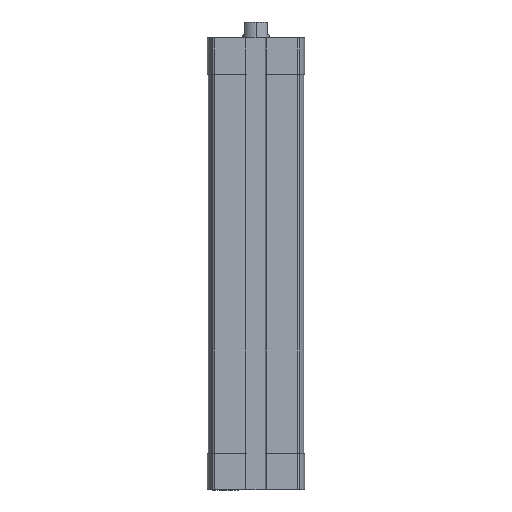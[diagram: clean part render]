
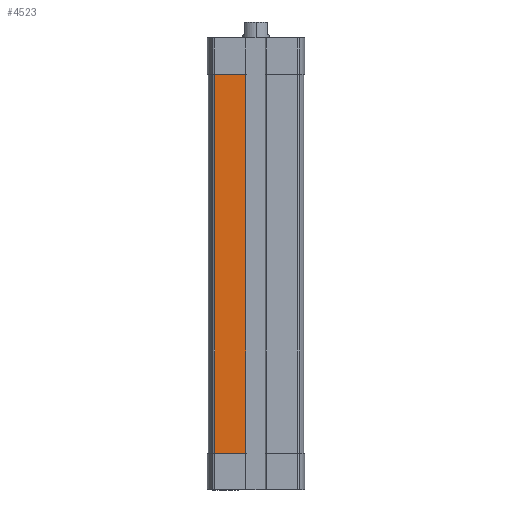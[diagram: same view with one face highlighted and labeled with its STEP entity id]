
A CAD part, left-side view. The second image highlights one B-rep face of the part: STEP entity #4523.
In plain terms, the highlighted planar face has unit normal (-1, 0, 0).
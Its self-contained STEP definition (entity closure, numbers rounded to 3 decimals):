
#397 = VECTOR ( 'NONE', #8538, 1000. ) ;
#1030 = CARTESIAN_POINT ( 'NONE',  ( -14.25, 12.347, -124. ) ) ;
#1310 = EDGE_CURVE ( 'NONE', #2787, #2977, #7086, .T. ) ;
#1376 = ORIENTED_EDGE ( 'NONE', *, *, #10419, .T. ) ;
#1497 = EDGE_CURVE ( 'NONE', #4537, #5689, #5673, .T. ) ;
#2312 = VECTOR ( 'NONE', #3758, 1000. ) ;
#2787 = VERTEX_POINT ( 'NONE', #4947 ) ;
#2963 = CARTESIAN_POINT ( 'NONE',  ( -14.25, 3.1, -11. ) ) ;
#2977 = VERTEX_POINT ( 'NONE', #6559 ) ;
#3280 = VECTOR ( 'NONE', #6947, 1000. ) ;
#3620 = FACE_OUTER_BOUND ( 'NONE', #9767, .T. ) ;
#3679 = DIRECTION ( 'NONE',  ( 0., 0., -1. ) ) ;
#3758 = DIRECTION ( 'NONE',  ( 0., -1., 0. ) ) ;
#3855 = DIRECTION ( 'NONE',  ( 0., 0., 1. ) ) ;
#4523 = ADVANCED_FACE ( 'NONE', ( #3620 ), #10087, .T. ) ;
#4537 = VERTEX_POINT ( 'NONE', #2963 ) ;
#4678 = CARTESIAN_POINT ( 'NONE',  ( -14.25, 12.347, -124. ) ) ;
#4947 = CARTESIAN_POINT ( 'NONE',  ( -14.25, 12.347, -124. ) ) ;
#5673 = LINE ( 'NONE', #8895, #397 ) ;
#5689 = VERTEX_POINT ( 'NONE', #6261 ) ;
#6261 = CARTESIAN_POINT ( 'NONE',  ( -14.25, 12.347, -11. ) ) ;
#6559 = CARTESIAN_POINT ( 'NONE',  ( -14.25, 3.1, -124. ) ) ;
#6872 = ORIENTED_EDGE ( 'NONE', *, *, #1310, .T. ) ;
#6947 = DIRECTION ( 'NONE',  ( 0., 0., 1. ) ) ;
#7030 = VECTOR ( 'NONE', #3679, 1000. ) ;
#7031 = AXIS2_PLACEMENT_3D ( 'NONE', #10945, #9235, #3855 ) ;
#7086 = LINE ( 'NONE', #4678, #2312 ) ;
#7312 = ORIENTED_EDGE ( 'NONE', *, *, #9300, .T. ) ;
#7828 = CARTESIAN_POINT ( 'NONE',  ( -14.25, 3.1, -124. ) ) ;
#8538 = DIRECTION ( 'NONE',  ( 0., 1., 0. ) ) ;
#8895 = CARTESIAN_POINT ( 'NONE',  ( -14.25, 0., -11. ) ) ;
#9235 = DIRECTION ( 'NONE',  ( -1., 0., 0. ) ) ;
#9300 = EDGE_CURVE ( 'NONE', #2977, #4537, #10421, .T. ) ;
#9389 = LINE ( 'NONE', #1030, #7030 ) ;
#9696 = ORIENTED_EDGE ( 'NONE', *, *, #1497, .T. ) ;
#9767 = EDGE_LOOP ( 'NONE', ( #6872, #7312, #9696, #1376 ) ) ;
#10087 = PLANE ( 'NONE',  #7031 ) ;
#10419 = EDGE_CURVE ( 'NONE', #5689, #2787, #9389, .T. ) ;
#10421 = LINE ( 'NONE', #7828, #3280 ) ;
#10945 = CARTESIAN_POINT ( 'NONE',  ( -14.25, 12.347, -124. ) ) ;
